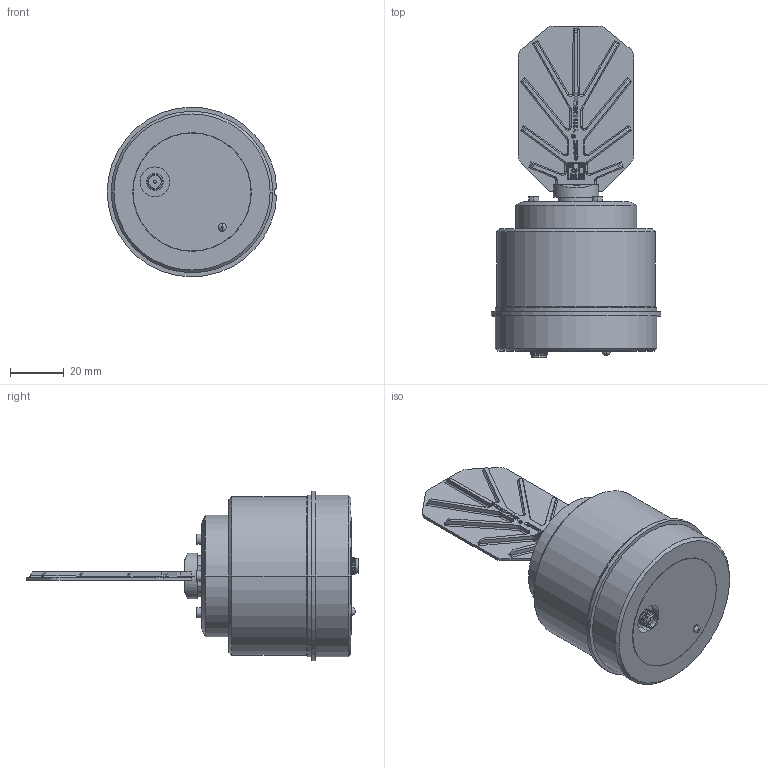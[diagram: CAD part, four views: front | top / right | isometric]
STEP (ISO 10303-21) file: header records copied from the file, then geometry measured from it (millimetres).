
FILE_DESCRIPTION (( 'STEP AP214' ), '1' );
FILE_NAME ('RLAY_A30_SiC.STEP', '2025-01-08T12:56:54', ( '' ), ( '' ), 'SwSTEP 2.0', 'SolidWorks 2011', '' );
FILE_SCHEMA (( 'AUTOMOTIVE_DESIGN' ));
Length unit declared in the file: millimetre
Products named in the file (5): socket head cap screw_iso_ISO 4762 M2 x 6 --- 6N; A30N_SiC_MirrorY; RLA_Draw15_0; RLA_solid; RLAY_A30_SiC
Assembly tree (5 placements, depth 2):
  RLAY_A30_SiC
    RLA_Draw15_0
    RLA_solid
    A30N_SiC_MirrorY
    socket head cap screw_iso_ISO 4762 M2 x 6 --- 6N  x2
Bounding box: 62.97 x 123.3 x 62.98 mm (x, y, z)
Volume: 145845.8 mm3; surface area: 23622.7 mm2
Topology: 5 solids, 5 shells, 1429 faces, 3569 edges, 2326 vertices
Faces by surface type: plane 1006, bspline 202, cylinder 135, cone 70, torus 16
Entity records: 65153 total; most frequent: CARTESIAN_POINT 18576, ORIENTED_EDGE 7002, DIRECTION 5823, EDGE_CURVE 3501, LINE 2747, VECTOR 2747, VERTEX_POINT 2293, EDGE_LOOP 1592
